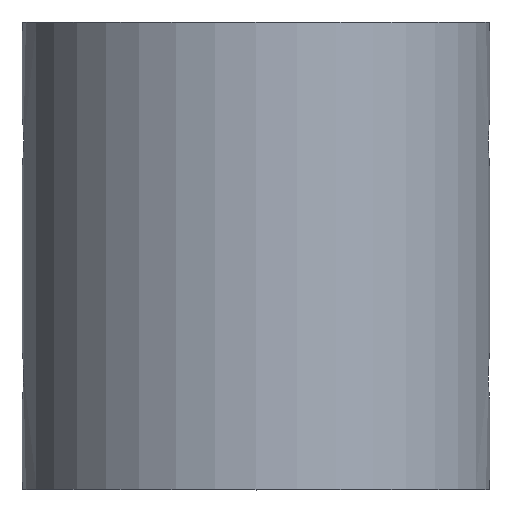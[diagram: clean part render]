
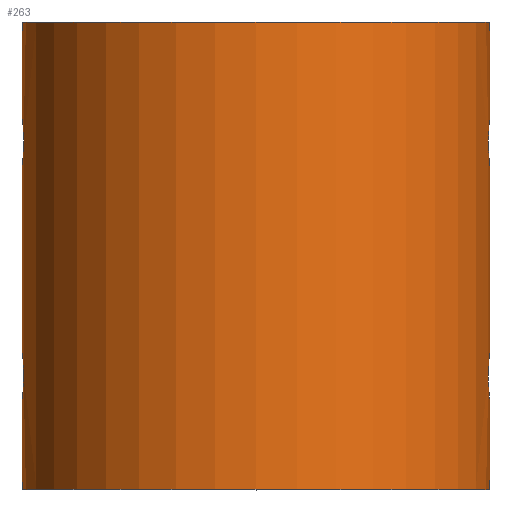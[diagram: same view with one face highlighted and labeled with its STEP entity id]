
A CAD part, top view. The second image highlights one B-rep face of the part: STEP entity #263.
In plain terms, the highlighted cylindrical face has radius 25.4 mm (diameter 50.8 mm), a full revolution.
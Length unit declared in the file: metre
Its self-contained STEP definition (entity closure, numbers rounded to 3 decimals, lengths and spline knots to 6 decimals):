
#12=B_SPLINE_CURVE_WITH_KNOTS('',3,(#422,#423,#424,#425,#426,#427,#428,
#429,#430,#431,#432),.UNSPECIFIED.,.T.,.F.,(1,1,1,1,1,1,1,1,1,1,1,1,1,1,
1),(-0.005989,-0.003993,-0.001996,0.,0.001996,
0.003993,0.005989,0.007985,0.009981,
0.011978,0.013974,0.01597,0.017966,
0.019963,0.021959),.UNSPECIFIED.);
#13=B_SPLINE_CURVE_WITH_KNOTS('',3,(#434,#435,#436,#437,#438,#439,#440,
#441,#442,#443,#444),.UNSPECIFIED.,.T.,.F.,(1,1,1,1,1,1,1,1,1,1,1,1,1,1,
1),(-0.005989,-0.003993,-0.001996,0.,0.001996,
0.003993,0.005989,0.007985,0.009981,
0.011978,0.013974,0.01597,0.017966,
0.019963,0.021959),.UNSPECIFIED.);
#14=B_SPLINE_CURVE_WITH_KNOTS('',3,(#450,#451,#452,#453,#454,#455,#456,
#457,#458,#459,#460),.UNSPECIFIED.,.T.,.F.,(1,1,1,1,1,1,1,1,1,1,1,1,1,1,
1),(-0.005989,-0.003993,-0.001996,0.,0.001996,
0.003993,0.005989,0.007985,0.009981,
0.011978,0.013974,0.01597,0.017966,
0.019963,0.021959),.UNSPECIFIED.);
#15=B_SPLINE_CURVE_WITH_KNOTS('',3,(#462,#463,#464,#465,#466,#467,#468,
#469,#470,#471,#472),.UNSPECIFIED.,.T.,.F.,(1,1,1,1,1,1,1,1,1,1,1,1,1,1,
1),(-0.005989,-0.003993,-0.001996,0.,0.001996,
0.003993,0.005989,0.007985,0.009981,
0.011978,0.013974,0.01597,0.017966,
0.019963,0.021959),.UNSPECIFIED.);
#19=CYLINDRICAL_SURFACE('',#297,0.0254);
#97=ORIENTED_EDGE('',*,*,#144,.T.);
#98=ORIENTED_EDGE('',*,*,#145,.T.);
#99=ORIENTED_EDGE('',*,*,#146,.T.);
#100=ORIENTED_EDGE('',*,*,#147,.F.);
#101=ORIENTED_EDGE('',*,*,#148,.T.);
#102=ORIENTED_EDGE('',*,*,#149,.T.);
#144=EDGE_CURVE('',#168,#168,#12,.T.);
#145=EDGE_CURVE('',#169,#169,#13,.T.);
#146=EDGE_CURVE('',#170,#170,#180,.T.);
#147=EDGE_CURVE('',#171,#171,#181,.T.);
#148=EDGE_CURVE('',#172,#172,#14,.T.);
#149=EDGE_CURVE('',#173,#173,#15,.T.);
#168=VERTEX_POINT('',#433);
#169=VERTEX_POINT('',#445);
#170=VERTEX_POINT('',#447);
#171=VERTEX_POINT('',#449);
#172=VERTEX_POINT('',#461);
#173=VERTEX_POINT('',#473);
#180=CIRCLE('',#298,0.0254);
#181=CIRCLE('',#299,0.0254);
#194=EDGE_LOOP('',(#97));
#195=EDGE_LOOP('',(#98));
#196=EDGE_LOOP('',(#99));
#197=EDGE_LOOP('',(#100));
#198=EDGE_LOOP('',(#101));
#199=EDGE_LOOP('',(#102));
#226=FACE_BOUND('',#194,.T.);
#227=FACE_BOUND('',#195,.T.);
#228=FACE_BOUND('',#196,.T.);
#229=FACE_BOUND('',#197,.T.);
#230=FACE_BOUND('',#198,.T.);
#231=FACE_BOUND('',#199,.T.);
#263=ADVANCED_FACE('',(#226,#227,#228,#229,#230,#231),#19,.T.);
#297=AXIS2_PLACEMENT_3D('',#421,#352,#353);
#298=AXIS2_PLACEMENT_3D('',#446,#354,#355);
#299=AXIS2_PLACEMENT_3D('',#448,#356,#357);
#352=DIRECTION('',(0.,1.,0.));
#353=DIRECTION('',(0.,0.,1.));
#354=DIRECTION('',(0.,1.,0.));
#355=DIRECTION('',(0.,0.,1.));
#356=DIRECTION('',(0.,1.,0.));
#357=DIRECTION('',(0.,0.,1.));
#421=CARTESIAN_POINT('',(0.,0.05,0.));
#422=CARTESIAN_POINT('',(-0.025336,0.06438,0.001999));
#423=CARTESIAN_POINT('',(-0.025239,0.062377,0.00283));
#424=CARTESIAN_POINT('',(-0.025336,0.060377,0.001999));
#425=CARTESIAN_POINT('',(-0.025432,0.059549,0.000002));
#426=CARTESIAN_POINT('',(-0.025336,0.060376,-0.002));
#427=CARTESIAN_POINT('',(-0.025239,0.062377,-0.002829));
#428=CARTESIAN_POINT('',(-0.025336,0.064376,-0.002002));
#429=CARTESIAN_POINT('',(-0.025432,0.065207,-0.000003));
#430=CARTESIAN_POINT('',(-0.025336,0.06438,0.001999));
#431=CARTESIAN_POINT('',(-0.025239,0.062377,0.00283));
#432=CARTESIAN_POINT('',(-0.025336,0.060377,0.001999));
#433=CARTESIAN_POINT('',(-0.025271,0.062378,0.002553));
#434=CARTESIAN_POINT('',(0.025336,0.06438,-0.001999));
#435=CARTESIAN_POINT('',(0.025239,0.062377,-0.00283));
#436=CARTESIAN_POINT('',(0.025336,0.060377,-0.001999));
#437=CARTESIAN_POINT('',(0.025432,0.059549,-0.000002));
#438=CARTESIAN_POINT('',(0.025336,0.060376,0.002));
#439=CARTESIAN_POINT('',(0.025239,0.062377,0.002829));
#440=CARTESIAN_POINT('',(0.025336,0.064376,0.002002));
#441=CARTESIAN_POINT('',(0.025432,0.065207,0.000003));
#442=CARTESIAN_POINT('',(0.025336,0.06438,-0.001999));
#443=CARTESIAN_POINT('',(0.025239,0.062377,-0.00283));
#444=CARTESIAN_POINT('',(0.025336,0.060377,-0.001999));
#445=CARTESIAN_POINT('',(0.025271,0.062378,-0.002553));
#446=CARTESIAN_POINT('',(0.,0.05,0.));
#447=CARTESIAN_POINT('',(0.,0.05,0.0254));
#448=CARTESIAN_POINT('',(0.,0.1008,0.));
#449=CARTESIAN_POINT('',(0.,0.1008,0.0254));
#450=CARTESIAN_POINT('',(0.025336,0.08978,-0.001999));
#451=CARTESIAN_POINT('',(0.025239,0.087777,-0.00283));
#452=CARTESIAN_POINT('',(0.025336,0.085777,-0.001999));
#453=CARTESIAN_POINT('',(0.025432,0.084949,-0.000002));
#454=CARTESIAN_POINT('',(0.025336,0.085776,0.002));
#455=CARTESIAN_POINT('',(0.025239,0.087777,0.002829));
#456=CARTESIAN_POINT('',(0.025336,0.089776,0.002002));
#457=CARTESIAN_POINT('',(0.025432,0.090607,0.000003));
#458=CARTESIAN_POINT('',(0.025336,0.08978,-0.001999));
#459=CARTESIAN_POINT('',(0.025239,0.087777,-0.00283));
#460=CARTESIAN_POINT('',(0.025336,0.085777,-0.001999));
#461=CARTESIAN_POINT('',(0.025271,0.087778,-0.002553));
#462=CARTESIAN_POINT('',(-0.025336,0.08978,0.001999));
#463=CARTESIAN_POINT('',(-0.025239,0.087777,0.00283));
#464=CARTESIAN_POINT('',(-0.025336,0.085777,0.001999));
#465=CARTESIAN_POINT('',(-0.025432,0.084949,0.000002));
#466=CARTESIAN_POINT('',(-0.025336,0.085776,-0.002));
#467=CARTESIAN_POINT('',(-0.025239,0.087777,-0.002829));
#468=CARTESIAN_POINT('',(-0.025336,0.089776,-0.002002));
#469=CARTESIAN_POINT('',(-0.025432,0.090607,-0.000003));
#470=CARTESIAN_POINT('',(-0.025336,0.08978,0.001999));
#471=CARTESIAN_POINT('',(-0.025239,0.087777,0.00283));
#472=CARTESIAN_POINT('',(-0.025336,0.085777,0.001999));
#473=CARTESIAN_POINT('',(-0.025271,0.087778,0.002553));
